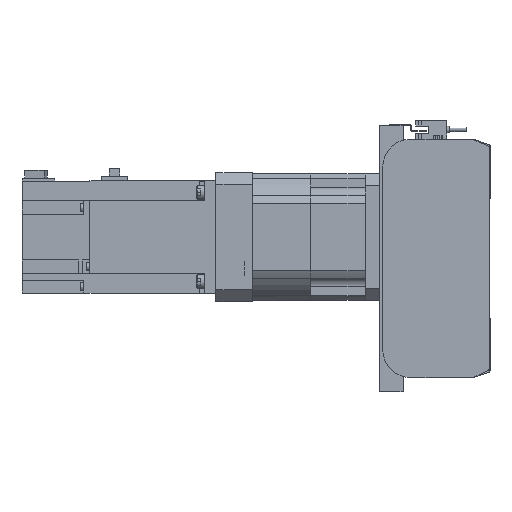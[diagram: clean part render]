
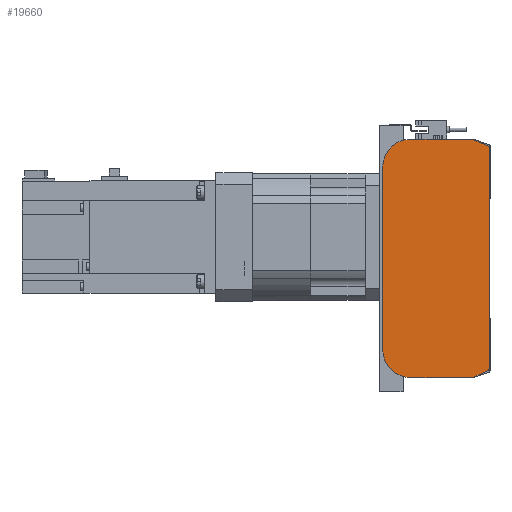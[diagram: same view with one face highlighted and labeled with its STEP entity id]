
A CAD part, left-side view. The second image highlights one B-rep face of the part: STEP entity #19660.
In plain terms, the highlighted planar face has unit normal (-1, 0, 0).
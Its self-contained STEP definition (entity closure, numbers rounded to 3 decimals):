
#1400=CIRCLE('',#21545,2.);
#1401=CIRCLE('',#21548,2.);
#1402=CIRCLE('',#21551,20.);
#1403=CIRCLE('',#21554,20.);
#5737=ORIENTED_EDGE('',*,*,#9177,.F.);
#5738=ORIENTED_EDGE('',*,*,#9255,.F.);
#5739=ORIENTED_EDGE('',*,*,#9253,.F.);
#5740=ORIENTED_EDGE('',*,*,#9251,.F.);
#5741=ORIENTED_EDGE('',*,*,#8999,.F.);
#5742=ORIENTED_EDGE('',*,*,#9250,.F.);
#5743=ORIENTED_EDGE('',*,*,#9248,.F.);
#5744=ORIENTED_EDGE('',*,*,#9246,.F.);
#5745=ORIENTED_EDGE('',*,*,#9244,.F.);
#5746=ORIENTED_EDGE('',*,*,#9242,.F.);
#8999=EDGE_CURVE('',#11119,#11120,#12815,.T.);
#9177=EDGE_CURVE('',#11191,#11192,#12929,.T.);
#9242=EDGE_CURVE('',#11192,#11233,#12974,.T.);
#9244=EDGE_CURVE('',#11233,#11234,#1400,.T.);
#9246=EDGE_CURVE('',#11234,#11235,#12977,.T.);
#9248=EDGE_CURVE('',#11235,#11236,#1401,.T.);
#9250=EDGE_CURVE('',#11236,#11119,#12980,.T.);
#9251=EDGE_CURVE('',#11120,#11237,#1402,.T.);
#9253=EDGE_CURVE('',#11237,#11238,#12982,.T.);
#9255=EDGE_CURVE('',#11238,#11191,#1403,.T.);
#11119=VERTEX_POINT('',#32715);
#11120=VERTEX_POINT('',#32717);
#11191=VERTEX_POINT('',#33018);
#11192=VERTEX_POINT('',#33020);
#11233=VERTEX_POINT('',#33150);
#11234=VERTEX_POINT('',#33154);
#11235=VERTEX_POINT('',#33158);
#11236=VERTEX_POINT('',#33162);
#11237=VERTEX_POINT('',#33168);
#11238=VERTEX_POINT('',#33172);
#12815=LINE('',#32716,#14546);
#12929=LINE('',#33019,#14660);
#12974=LINE('',#33149,#14705);
#12977=LINE('',#33157,#14708);
#12980=LINE('',#33165,#14711);
#12982=LINE('',#33171,#14713);
#14546=VECTOR('',#26177,1000.);
#14660=VECTOR('',#26525,1000.);
#14705=VECTOR('',#26658,1000.);
#14708=VECTOR('',#26667,1000.);
#14711=VECTOR('',#26676,1000.);
#14713=VECTOR('',#26684,1000.);
#16176=EDGE_LOOP('',(#5737,#5738,#5739,#5740,#5741,#5742,#5743,#5744,#5745,
#5746));
#17771=FACE_BOUND('',#16176,.T.);
#18630=PLANE('',#21556);
#19660=ADVANCED_FACE('',(#17771),#18630,.F.);
#21545=AXIS2_PLACEMENT_3D('',#33153,#26662,#26663);
#21548=AXIS2_PLACEMENT_3D('',#33161,#26671,#26672);
#21551=AXIS2_PLACEMENT_3D('',#33167,#26679,#26680);
#21554=AXIS2_PLACEMENT_3D('',#33175,#26688,#26689);
#21556=AXIS2_PLACEMENT_3D('',#33177,#26692,#26693);
#26177=DIRECTION('',(0.,1.,0.));
#26525=DIRECTION('',(0.,-1.,0.));
#26658=DIRECTION('',(0.,-0.913,-0.408));
#26662=DIRECTION('',(1.,0.,0.));
#26663=DIRECTION('',(0.,0.,-1.));
#26667=DIRECTION('',(0.,0.,-1.));
#26671=DIRECTION('',(1.,0.,0.));
#26672=DIRECTION('',(0.,0.,-1.));
#26676=DIRECTION('',(0.,0.913,-0.408));
#26679=DIRECTION('',(1.,0.,0.));
#26680=DIRECTION('',(0.,0.,-1.));
#26684=DIRECTION('',(0.,0.,1.));
#26688=DIRECTION('',(1.,0.,0.));
#26689=DIRECTION('',(0.,0.,-1.));
#26692=DIRECTION('',(1.,0.,0.));
#26693=DIRECTION('',(0.,0.,-1.));
#32715=CARTESIAN_POINT('',(0.,12.33,-85.));
#32716=CARTESIAN_POINT('',(0.,12.33,-85.));
#32717=CARTESIAN_POINT('',(0.,56.5,-85.));
#33018=CARTESIAN_POINT('',(0.,56.5,85.));
#33019=CARTESIAN_POINT('',(0.,56.5,85.));
#33020=CARTESIAN_POINT('',(0.,12.33,85.));
#33149=CARTESIAN_POINT('',(0.,12.33,85.));
#33150=CARTESIAN_POINT('',(0.,1.684,80.239));
#33153=CARTESIAN_POINT('',(0.,2.5,78.413));
#33154=CARTESIAN_POINT('',(0.,0.5,78.413));
#33157=CARTESIAN_POINT('',(0.,0.5,78.413));
#33158=CARTESIAN_POINT('',(0.,0.5,-78.413));
#33161=CARTESIAN_POINT('',(0.,2.5,-78.413));
#33162=CARTESIAN_POINT('',(0.,1.684,-80.239));
#33165=CARTESIAN_POINT('',(0.,1.684,-80.239));
#33167=CARTESIAN_POINT('',(0.,56.5,-65.));
#33168=CARTESIAN_POINT('',(0.,76.5,-65.));
#33171=CARTESIAN_POINT('',(0.,76.5,-65.));
#33172=CARTESIAN_POINT('',(0.,76.5,65.));
#33175=CARTESIAN_POINT('',(0.,56.5,65.));
#33177=CARTESIAN_POINT('',(0.,2.5,78.413));
